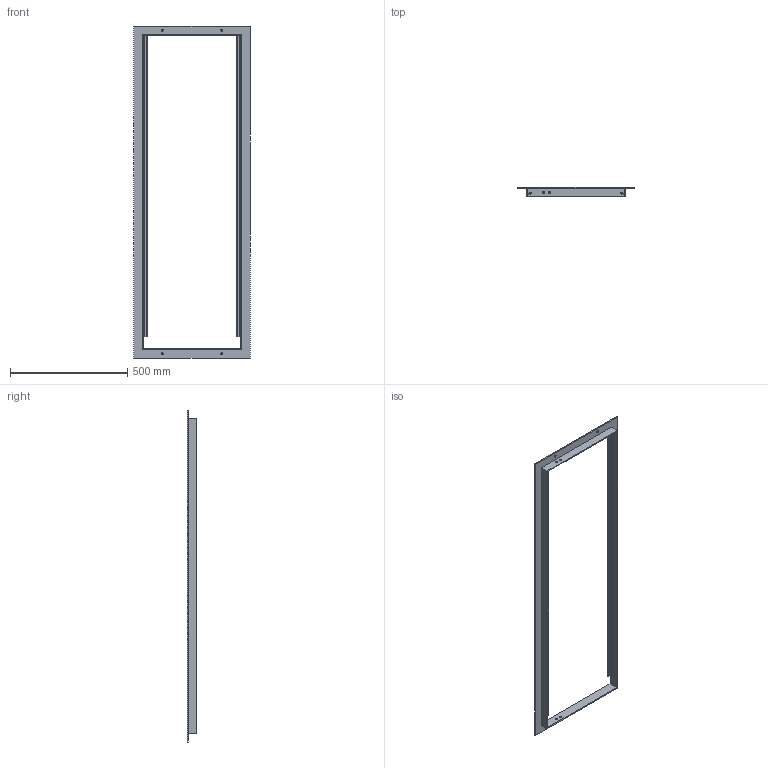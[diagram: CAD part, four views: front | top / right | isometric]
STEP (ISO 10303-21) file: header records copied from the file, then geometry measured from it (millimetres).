
FILE_DESCRIPTION (( 'STEP AP214' ), '1' );
FILE_NAME ('KP_DCF1450P.step', '2013-05-14T14:17:27', ( 'robinj' ), ( 'Microsoft' ), 'SwSTEP 2.0', 'SolidWorks 2013', '' );
FILE_SCHEMA (( 'AUTOMOTIVE_DESIGN' ));
Length unit declared in the file: millimetre
Products named in the file (1): KP_DCF1450P
Bounding box: 495 x 40 x 1415 mm (x, y, z)
Volume: 1555284.4 mm3; surface area: 993117.6 mm2
Topology: 55 solids, 55 shells, 1247 faces, 3258 edges, 2172 vertices
Faces by surface type: plane 651, cylinder 490, bspline 106
Entity records: 62260 total; most frequent: CARTESIAN_POINT 16801, ORIENTED_EDGE 6516, DIRECTION 6303, EDGE_CURVE 3258, VERTEX_POINT 2172, AXIS2_PLACEMENT_3D 2122, LINE 2059, VECTOR 2059
